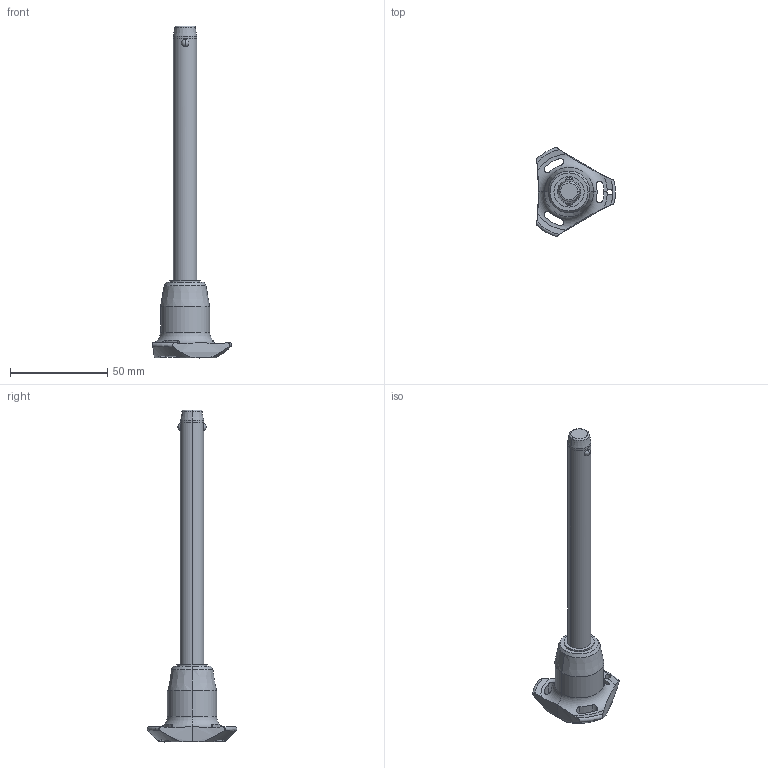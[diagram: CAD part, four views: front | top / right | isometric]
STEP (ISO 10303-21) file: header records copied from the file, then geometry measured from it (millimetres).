
FILE_DESCRIPTION (( 'STEP AP203' ), '1' );
FILE_NAME ('QR1716.M12-120-T.step', '2025-11-13T10:38:17', ( '' ), ( '' ), 'SwSTEP 2.0', 'SolidWorks 2019', '' );
FILE_SCHEMA (( 'CONFIG_CONTROL_DESIGN' ));
Length unit declared in the file: millimetre
Products named in the file (1): QR1716.M12-120-T
Bounding box: 40.5 x 45.88 x 170.3 mm (x, y, z)
Volume: 35345.7 mm3; surface area: 10797.2 mm2
Topology: 1 solids, 1 shells, 68 faces, 183 edges, 116 vertices
Faces by surface type: cylinder 32, cone 14, torus 11, sphere 6, plane 5
Entity records: 2915 total; most frequent: CARTESIAN_POINT 1162, ORIENTED_EDGE 366, DIRECTION 346, EDGE_CURVE 183, AXIS2_PLACEMENT_3D 154, VERTEX_POINT 116, CIRCLE 85, EDGE_LOOP 75
